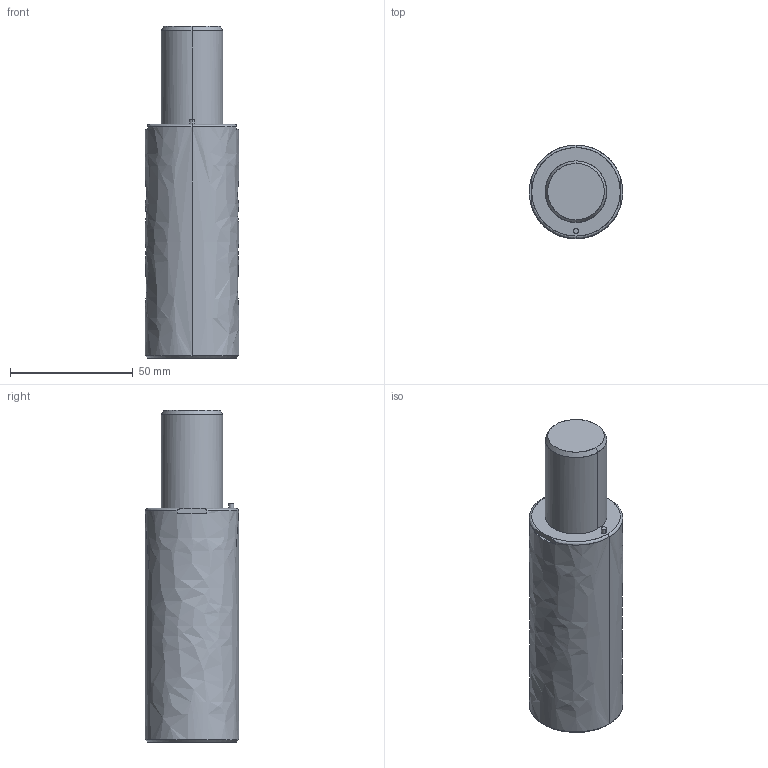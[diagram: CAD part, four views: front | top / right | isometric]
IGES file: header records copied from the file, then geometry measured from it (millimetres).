
Global section: file name: E:\UnigraphicsGraphicData\MISUMI_PRESS-PARTS\IGES\3d_gsx38-38_03980_r00.igs; native system: NX V5.0; preprocessor: UGS NX IGES V5.0; author: MISUMI; date: 20110105.160825; units: millimetre
Bounding box: 38 x 38 x 135 mm (x, y, z)
Surface area: 17872 mm2 (no closed solid volume)
Topology: 0 solids, 0 shells, 59 faces, 414 edges, 406 vertices
Faces by surface type: bspline 59
